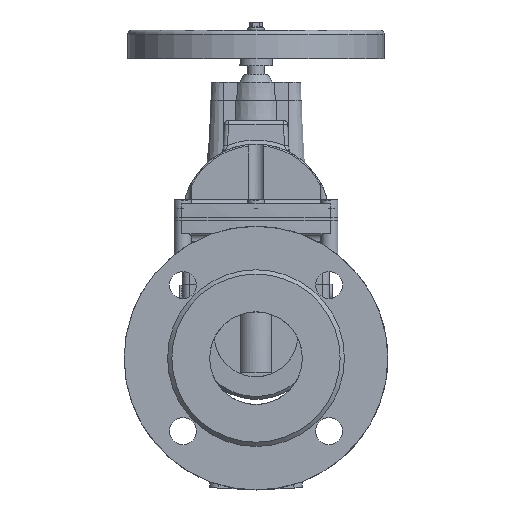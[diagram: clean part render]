
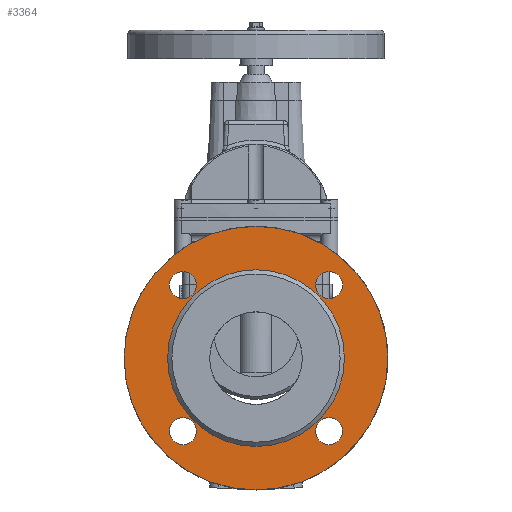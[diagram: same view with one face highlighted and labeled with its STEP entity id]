
A CAD part, left-side view. The second image highlights one B-rep face of the part: STEP entity #3364.
In plain terms, the highlighted planar face has unit normal (-1, 0, 0).
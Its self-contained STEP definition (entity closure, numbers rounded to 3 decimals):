
#3364=ADVANCED_FACE('',(#8357,#8359,#8361,#8363,#8365,#8367),#8369,.F.);
#8357=FACE_BOUND('',#8358,.T.);
#8358=EDGE_LOOP('',(#17101));
#8359=FACE_BOUND('',#8360,.T.);
#8360=EDGE_LOOP('',(#17102));
#8361=FACE_BOUND('',#8362,.T.);
#8362=EDGE_LOOP('',(#17103));
#8363=FACE_BOUND('',#8364,.T.);
#8364=EDGE_LOOP('',(#17104));
#8365=FACE_BOUND('',#8366,.T.);
#8366=EDGE_LOOP('',(#17105));
#8367=FACE_BOUND('',#8368,.T.);
#8368=EDGE_LOOP('',(#17106));
#8369=PLANE('',#8370);
#8370=AXIS2_PLACEMENT_3D('',#8371,#8372,#8373);
#8371=CARTESIAN_POINT('',(-132.,0.,0.));
#8372=DIRECTION('',(1.,0.,0.));
#8373=DIRECTION('',(0.,1.,0.));
#17101=ORIENTED_EDGE('',*,*,#19702,.F.);
#17102=ORIENTED_EDGE('',*,*,#19712,.T.);
#17103=ORIENTED_EDGE('',*,*,#19711,.T.);
#17104=ORIENTED_EDGE('',*,*,#19710,.T.);
#17105=ORIENTED_EDGE('',*,*,#19841,.F.);
#17106=ORIENTED_EDGE('',*,*,#19709,.T.);
#19702=EDGE_CURVE('',#22335,#22335,#22336,.T.);
#19709=EDGE_CURVE('',#22345,#22345,#22346,.T.);
#19710=EDGE_CURVE('',#22347,#22347,#22348,.T.);
#19711=EDGE_CURVE('',#22349,#22349,#22350,.T.);
#19712=EDGE_CURVE('',#22351,#22351,#22352,.T.);
#19841=EDGE_CURVE('',#22548,#22548,#22549,.T.);
#22335=VERTEX_POINT('',#30676);
#22336=CIRCLE('',#30677,92.5);
#22345=VERTEX_POINT('',#30703);
#22346=CIRCLE('',#30704,9.5);
#22347=VERTEX_POINT('',#30708);
#22348=CIRCLE('',#30709,9.5);
#22349=VERTEX_POINT('',#30713);
#22350=CIRCLE('',#30714,9.5);
#22351=VERTEX_POINT('',#30718);
#22352=CIRCLE('',#30719,9.5);
#22548=VERTEX_POINT('',#31317);
#22549=CIRCLE('',#31318,62.);
#30676=CARTESIAN_POINT('',(-132.,92.5,0.));
#30677=AXIS2_PLACEMENT_3D('',#30678,#30679,#30680);
#30678=CARTESIAN_POINT('',(-132.,0.,0.));
#30679=DIRECTION('',(1.,0.,0.));
#30680=DIRECTION('',(0.,1.,0.));
#30703=CARTESIAN_POINT('',(-132.,60.765,51.265));
#30704=AXIS2_PLACEMENT_3D('',#30705,#30706,#30707);
#30705=CARTESIAN_POINT('',(-132.,51.265,51.265));
#30706=DIRECTION('',(1.,0.,0.));
#30707=DIRECTION('',(0.,1.,0.));
#30708=CARTESIAN_POINT('',(-132.,51.265,-60.765));
#30709=AXIS2_PLACEMENT_3D('',#30710,#30711,#30712);
#30710=CARTESIAN_POINT('',(-132.,51.265,-51.265));
#30711=DIRECTION('',(1.,0.,0.));
#30712=DIRECTION('',(0.,0.,-1.));
#30713=CARTESIAN_POINT('',(-132.,-60.765,-51.265));
#30714=AXIS2_PLACEMENT_3D('',#30715,#30716,#30717);
#30715=CARTESIAN_POINT('',(-132.,-51.265,-51.265));
#30716=DIRECTION('',(1.,0.,0.));
#30717=DIRECTION('',(0.,-1.,0.));
#30718=CARTESIAN_POINT('',(-132.,-51.265,60.765));
#30719=AXIS2_PLACEMENT_3D('',#30720,#30721,#30722);
#30720=CARTESIAN_POINT('',(-132.,-51.265,51.265));
#30721=DIRECTION('',(1.,0.,0.));
#30722=DIRECTION('',(0.,0.,1.));
#31317=CARTESIAN_POINT('',(-132.,-62.,0.));
#31318=AXIS2_PLACEMENT_3D('',#31319,#31320,#31321);
#31319=CARTESIAN_POINT('',(-132.,0.,0.));
#31320=DIRECTION('',(-1.,0.,0.));
#31321=DIRECTION('',(0.,-1.,0.));
